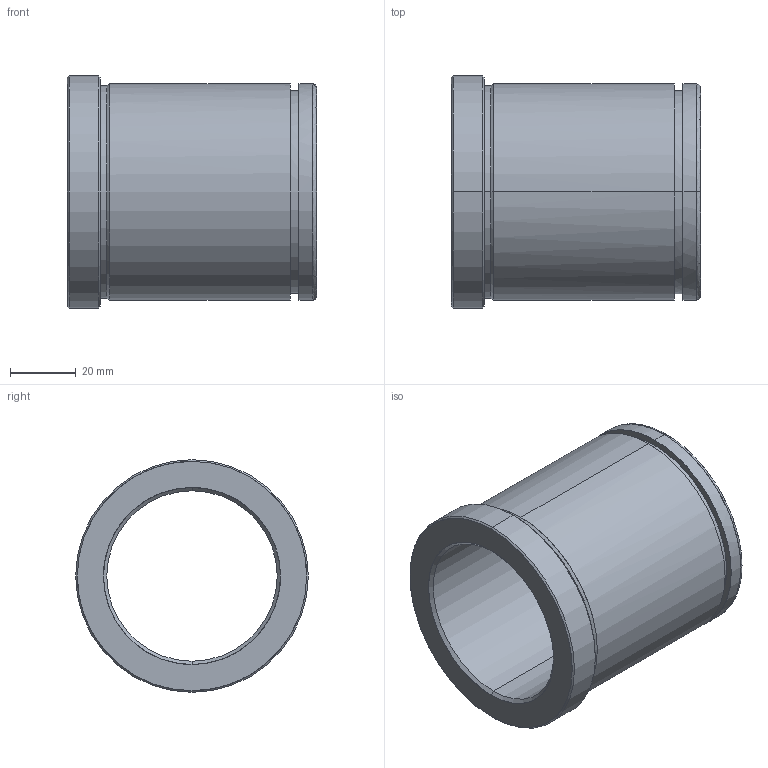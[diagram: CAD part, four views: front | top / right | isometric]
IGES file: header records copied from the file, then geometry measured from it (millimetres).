
Start section: START RECORD GO HERE.
Global section: file name: 553-52X76.igs; native system: DASSAULT SYSTEMES CATIA V5 R20 - www.3ds.com; preprocessor: CATIA Version 5 Release 20 ; author: Utente; organization: NB04-ASUS; date: 20210608.200349; units: millimetre
Bounding box: 76 x 71 x 71 mm (x, y, z)
Surface area: 32389.9 mm2 (no closed solid volume)
Topology: 0 solids, 0 shells, 29 faces, 184 edges, 184 vertices
Faces by surface type: revolution 24, plane 5
